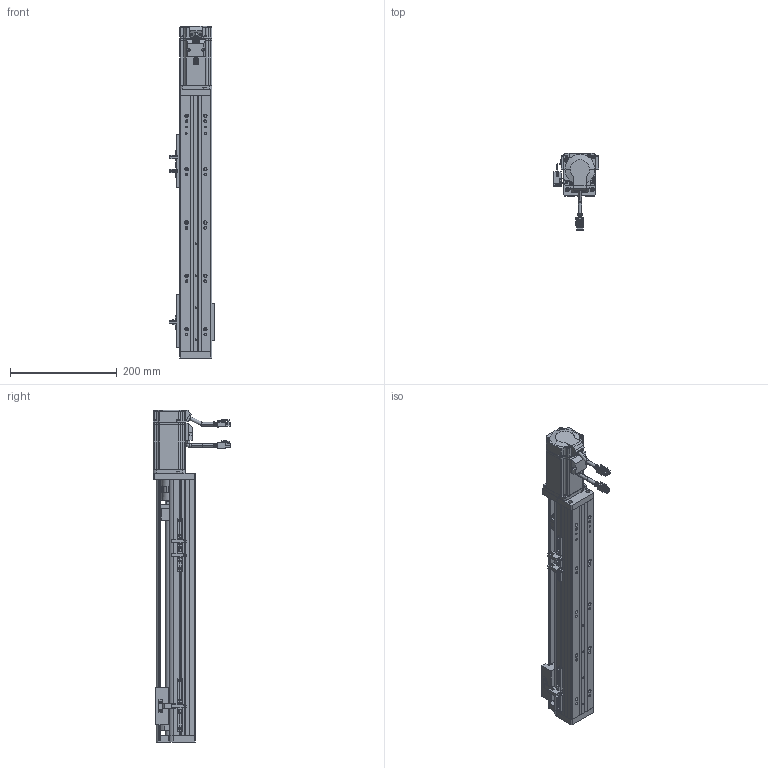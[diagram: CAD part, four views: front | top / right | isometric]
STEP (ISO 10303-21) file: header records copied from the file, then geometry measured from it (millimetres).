
FILE_DESCRIPTION (( 'STEP AP214' ), '1' );
FILE_NAME ('LT60-S1610-S300-P400.STEP', '2022-11-08T02:54:44', ( '' ), ( '' ), 'SwSTEP 2.0', 'SolidWorks 2020', '' );
FILE_SCHEMA (( 'AUTOMOTIVE_DESIGN' ));
Length unit declared in the file: millimetre
Products named in the file (25): 60薊粣ん湮謂; 阻尼圈胶垫（丝杆）; LT60-S1610-S300-P400-HGW15CA; LT60-S1610-S300-P400-ヶ啣; 60佪裝蹟譫16-F; 坶踡蹟譫M12; LT60-S300裔啣S; HGW15; LT60-S1610-S300-P400-賑怢; 零件1^联轴器-8转10（外径30长40）; LT60-S1610-S300-P400-倰第; LT60-S1610-S300-P400-翋盓傅釱; 侂狟400W侜督萇儂-L300; LT60-S1610-S300-P400-綴啣; LT60-S1610-S300-P400-粣創揤裔; LT60-S1610-S300-P400-佪裝; LT60-S1610-S300-P400; 覜茼えZA; 6000粣創-F; T型槽（宽9-厚6-长100）; 韁韓672壽萇羲壽; 垫圈（内径12.1-6）; 联轴器-8转10（外径30长40）; 60薊粣ん苤謂; angular contact ball bearings gb_Rolling bearings S7001 GB 292-94
Assembly tree (30 placements, depth 3):
  LT60-S1610-S300-P400
    LT60-S1610-S300-P400-倰第
    LT60-S300裔啣S
    LT60-S1610-S300-P400-ヶ啣
    LT60-S1610-S300-P400-綴啣
    LT60-S1610-S300-P400-HGW15CA
    HGW15
    LT60-S1610-S300-P400-賑怢
    60佪裝蹟譫16-F
    LT60-S1610-S300-P400-佪裝
    LT60-S1610-S300-P400-翋盓傅釱
    angular contact ball bearings gb_Rolling bearings S7001 GB 292-94  x2
    阻尼圈胶垫（丝杆）  x2
    垫圈（内径12.1-6）  x2
    坶踡蹟譫M12
    LT60-S1610-S300-P400-粣創揤裔
    联轴器-8转10（外径30长40）
      60薊粣ん苤謂
      60薊粣ん湮謂
      零件1^联轴器-8转10（外径30长40）
    侂狟400W侜督萇儂-L300
    覜茼えZA
    韁韓672壽萇羲壽  x3
    6000粣創-F
    T型槽（宽9-厚6-长100）  x2
Bounding box: 84.7 x 144.8 x 622.5 mm (x, y, z)
Volume: 1436733.4 mm3; surface area: 462571.9 mm2
Topology: 35 solids, 35 shells, 3060 faces, 8687 edges, 5676 vertices
Faces by surface type: plane 1527, cylinder 1062, bspline 172, cone 129, torus 114, sphere 56
Entity records: 106180 total; most frequent: CARTESIAN_POINT 23696, ORIENTED_EDGE 14870, DIRECTION 14160, EDGE_CURVE 7435, AXIS2_PLACEMENT_3D 4947, VERTEX_POINT 4907, VECTOR 4266, LINE 4266
